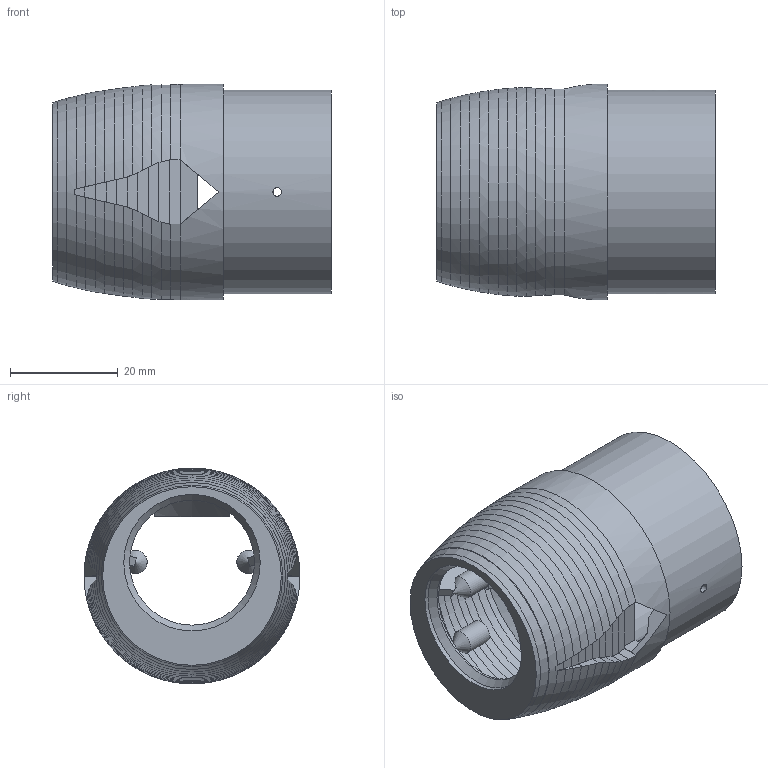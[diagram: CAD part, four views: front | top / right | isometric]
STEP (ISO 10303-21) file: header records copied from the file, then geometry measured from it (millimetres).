
FILE_DESCRIPTION(('SkyG Speed 90B - revision C6B-12 - 2026-10-11','N0P-nose-pi-camera'),'2;1');
FILE_NAME('N0P-nose-pi-camera_C6B-12','2026-10-11T16:48:42',('Author'),( 'Open CASCADE'),'Open CASCADE STEP processor 7.9','Open CASCADE 7.9' ,'Unknown');
FILE_SCHEMA(('AUTOMOTIVE_DESIGN { 1 0 10303 214 1 1 1 1 }'));
Length unit declared in the file: millimetre
Products named in the file (1): N0P-nose-pi-camera C6B-12
Bounding box: 51.6 x 40 x 40 mm (x, y, z)
Volume: 12768.3 mm3; surface area: 14826.2 mm2
Topology: 1 solids, 1 shells, 330 faces, 930 edges, 600 vertices
Faces by surface type: plane 154, cone 74, bspline 68, cylinder 34
Full cylindrical faces by diameter (mm): 1.6 x6, 2 x1, 23.154 x1, 25.3 x1, 33.8 x1, 37.7 x1, 40 x1
Entity records: 26437 total; most frequent: CARTESIAN_POINT 9901, DIRECTION 2512, ORIENTED_EDGE 1852, PCURVE 1852, DEFINITIONAL_REPRESENTATION 1852, LINE 1292, VECTOR 1292, B_SPLINE_CURVE_WITH_KNOTS 989
